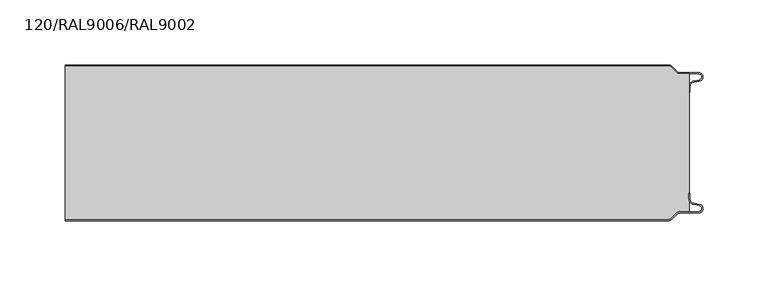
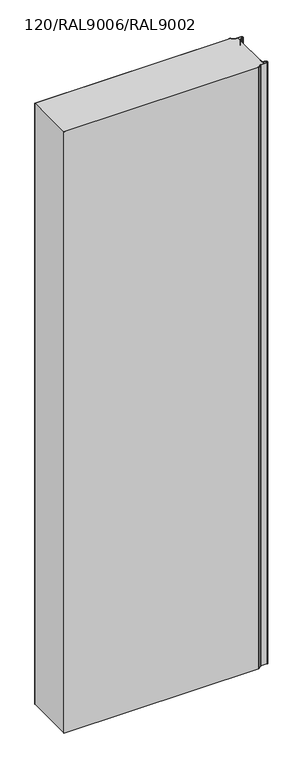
"""IFC4 building model written with IfcOpenShell, lengths in millimetres: plate geometry, TR_C_V_FTV_Panel_cut_TONGUE : 120/RAL9006/RAL9002."""

from ifc_helpers import new_model, si_unit, point, frame, frame_2d, origin, place, context, project, spatial, polyline, circle_curve, trimmed, segment, composite_curve, outline, extrude, source, transform, mapped, element, save


def plate_120_ral9006_ral9002_b7fea2f2(model_context):
    return source(origin(), model_context, "Body", "SweptSolid", [
        extrude(outline(composite_curve([segment(polyline([(249.8000013, -103.1130328), (249.8000013, -99.0), (250.6000013, -99.0), (250.6000013, -103.1130328)]), True, "CONTINUOUS"), segment(trimmed(circle_curve(frame_2d((254.3500013, -103.1130328)), 3.75), [point((250.6000013, -103.1130328))], [point((253.6988207, -106.8060618))], True, "CARTESIAN"), True, "CONTINUOUS"), segment(polyline([(253.6988207, -106.8060618), (257.9143579, -107.5493748)]), True, "CONTINUOUS"), segment(trimmed(circle_curve(frame_2d((257.3500013, -110.75)), 3.25), [point((257.9143579, -107.5493748))], [point((257.3500013, -114.0))], False, "CARTESIAN"), True, "CONTINUOUS"), segment(polyline([(257.3500013, -114.0), (242.6000013, -114.0)]), True, "CONTINUOUS"), segment(trimmed(circle_curve(frame_2d((242.6000013, -116.5)), 2.5), [point((242.6000013, -114.0))], [point((240.8322344, -114.732233))], True, "CARTESIAN"), True, "CONTINUOUS"), segment(polyline([(240.8322344, -114.732233), (236.4431471, -119.1213203)]), True, "CONTINUOUS"), segment(trimmed(circle_curve(frame_2d((234.3218267, -117.0)), 3.0), [point((236.4431471, -119.1213203))], [point((234.3218267, -120.0))], False, "CARTESIAN"), True, "CONTINUOUS"), segment(polyline([(234.3218267, -120.0), (-230.0000002, -120.0), (-230.0000002, -119.2), (234.3218267, -119.2)]), True, "CONTINUOUS"), segment(trimmed(circle_curve(frame_2d((234.3218267, -117.0)), 2.2), [point((234.3218267, -119.2))], [point((235.8774616, -118.5556349))], True, "CARTESIAN"), True, "CONTINUOUS"), segment(polyline([(235.8774616, -118.5556349), (240.2665489, -114.1665476)]), True, "CONTINUOUS"), segment(trimmed(circle_curve(frame_2d((242.6000013, -116.5)), 3.3), [point((240.2665489, -114.1665476))], [point((242.6000013, -113.2))], False, "CARTESIAN"), True, "CONTINUOUS"), segment(polyline([(242.6000013, -113.2), (257.3500013, -113.2)]), True, "CONTINUOUS"), segment(trimmed(circle_curve(frame_2d((257.3500013, -110.75)), 2.45), [point((257.3500013, -113.2))], [point((257.7754394, -108.337221))], True, "CARTESIAN"), True, "CONTINUOUS"), segment(polyline([(257.7754394, -108.337221), (253.5599021, -107.5939081)]), True, "CONTINUOUS"), segment(trimmed(circle_curve(frame_2d((254.3500013, -103.1130328)), 4.55), [point((253.5599021, -107.5939081))], [point((249.8000013, -103.1130328))], False, "CARTESIAN"), True, "CONTINUOUS")], self_intersect=False)), frame((0.0, 0.0, -15.0), z_axis=(0.0, 0.0, 1.0), x_axis=(1.0, 0.0, 0.0)), (0.0, 0.0, 1.0), 1515.0),
        extrude(outline(composite_curve([segment(trimmed(circle_curve(frame_2d((234.3218267, -3.0)), 2.2), [point((234.3218267, -0.8))], [point((235.8774616, -1.4443651))], False, "CARTESIAN"), True, "CONTINUOUS"), segment(polyline([(235.8774616, -1.4443651), (240.2665489, -5.8334524)]), True, "CONTINUOUS"), segment(trimmed(circle_curve(frame_2d((242.6000013, -3.5)), 3.3), [point((240.2665489, -5.8334524))], [point((242.6000013, -6.8))], True, "CARTESIAN"), True, "CONTINUOUS"), segment(polyline([(242.6000013, -6.8), (250.0000002, -6.8), (250.0000002, -113.2), (242.6000013, -113.2)]), True, "CONTINUOUS"), segment(trimmed(circle_curve(frame_2d((242.6000013, -116.5)), 3.3), [point((242.6000013, -113.2))], [point((240.2665489, -114.1665476))], True, "CARTESIAN"), True, "CONTINUOUS"), segment(polyline([(240.2665489, -114.1665476), (235.8774616, -118.5556349)]), True, "CONTINUOUS"), segment(trimmed(circle_curve(frame_2d((234.3218267, -117.0)), 2.2), [point((235.8774616, -118.5556349))], [point((234.3218267, -119.2))], False, "CARTESIAN"), True, "CONTINUOUS"), segment(polyline([(234.3218267, -119.2), (-230.0000002, -119.2), (-230.0000002, -0.8), (234.3218267, -0.8)]), True, "CONTINUOUS")], self_intersect=False)), frame((0.0, 0.0, -15.0), z_axis=(0.0, 0.0, 1.0), x_axis=(1.0, 0.0, 0.0)), (0.0, 0.0, 1.0), 1515.0),
        extrude(outline(composite_curve([segment(trimmed(circle_curve(frame_2d((254.3500013, -16.8869672)), 4.55), [point((249.8000013, -16.8869672))], [point((253.5599021, -12.4060919))], False, "CARTESIAN"), True, "CONTINUOUS"), segment(polyline([(253.5599021, -12.4060919), (257.7754394, -11.662779)]), True, "CONTINUOUS"), segment(trimmed(circle_curve(frame_2d((257.3500013, -9.25)), 2.45), [point((257.7754394, -11.662779))], [point((257.3500013, -6.8))], True, "CARTESIAN"), True, "CONTINUOUS"), segment(polyline([(257.3500013, -6.8), (242.6000013, -6.8)]), True, "CONTINUOUS"), segment(trimmed(circle_curve(frame_2d((242.6000013, -3.5)), 3.3), [point((242.6000013, -6.8))], [point((240.2665489, -5.8334524))], False, "CARTESIAN"), True, "CONTINUOUS"), segment(polyline([(240.2665489, -5.8334524), (235.8774616, -1.4443651)]), True, "CONTINUOUS"), segment(trimmed(circle_curve(frame_2d((234.3218267, -3.0)), 2.2), [point((235.8774616, -1.4443651))], [point((234.3218267, -0.8))], True, "CARTESIAN"), True, "CONTINUOUS"), segment(polyline([(234.3218267, -0.8), (-230.0000002, -0.8), (-230.0000002, 0.0), (234.3218267, 0.0)]), True, "CONTINUOUS"), segment(trimmed(circle_curve(frame_2d((234.3218267, -3.0)), 3.0), [point((234.3218267, 0.0))], [point((236.4431471, -0.8786797))], False, "CARTESIAN"), True, "CONTINUOUS"), segment(polyline([(236.4431471, -0.8786797), (240.8322344, -5.267767)]), True, "CONTINUOUS"), segment(trimmed(circle_curve(frame_2d((242.6000013, -3.5)), 2.5), [point((240.8322344, -5.267767))], [point((242.6000013, -6.0))], True, "CARTESIAN"), True, "CONTINUOUS"), segment(polyline([(242.6000013, -6.0), (257.3500013, -6.0)]), True, "CONTINUOUS"), segment(trimmed(circle_curve(frame_2d((257.3500013, -9.25)), 3.25), [point((257.3500013, -6.0))], [point((257.9143579, -12.4506252))], False, "CARTESIAN"), True, "CONTINUOUS"), segment(polyline([(257.9143579, -12.4506252), (253.6988207, -13.1939382)]), True, "CONTINUOUS"), segment(trimmed(circle_curve(frame_2d((254.3500013, -16.8869672)), 3.75), [point((253.6988207, -13.1939382))], [point((250.6000013, -16.8869672))], True, "CARTESIAN"), True, "CONTINUOUS"), segment(polyline([(250.6000013, -16.8869672), (250.6000013, -21.0), (249.8000013, -21.0), (249.8000013, -16.8869672)]), True, "CONTINUOUS")], self_intersect=False)), frame((0.0, 0.0, -15.0), z_axis=(0.0, 0.0, 1.0), x_axis=(1.0, 0.0, 0.0)), (0.0, 0.0, 1.0), 1515.0),
    ])


if __name__ == "__main__":
    model = new_model("IFC4")
    model_context = context("Model", 3, world=origin())
    ifc_project = project(units=[si_unit("LENGTHUNIT", "METRE", prefix="MILLI")], contexts=[model_context])
    site = spatial("IfcSite", under=ifc_project)
    building = spatial("IfcBuilding", under=site)
    placement = place(None, origin())
    plate_120_ral9006_ral9002_shape = plate_120_ral9006_ral9002_b7fea2f2(model_context)
    element("IfcPlate", 1, ObjectType="TR_C_V_FTV_Panel_cut_TONGUE : 120/RAL9006/RAL9002", at=placement, inside=building, context=model_context, shape_type="MappedRepresentation", body=[
        mapped(plate_120_ral9006_ral9002_shape, transform((0.0, 0.0, 0.0), x_axis=(1.0, 0.0, 0.0), y_axis=(0.0, 1.0, 0.0), z_axis=(0.0, 0.0, 1.0))),
    ])
    save(model, "model.ifc")
